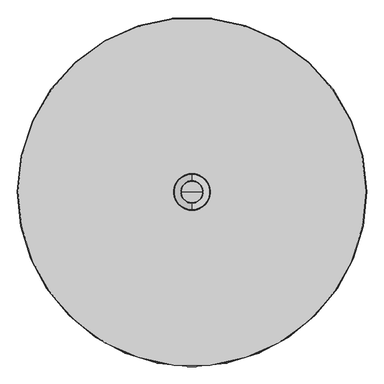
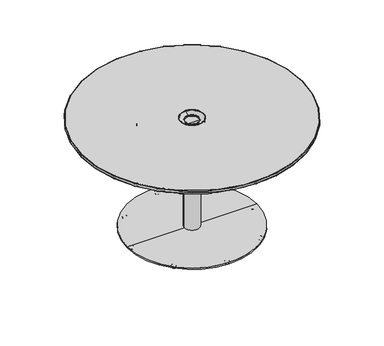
"""IFC4 building model written with IfcOpenShell, lengths in millimetres: furniture geometry, Steelcase Coalesse - Montara650 - Table - Work Height - Round : 54'' Diameter."""

from ifc_helpers import new_model, si_unit, point, frame, origin, origin_with_axes, origin_2d, place, context, project, spatial, polyline, circle_curve, ellipse_curve, trimmed, segment, composite_curve, outline, extrude, source, transform, mapped, element, save
from ifc_brep_helpers import plane_surface, cylinder_surface, revolved_surface, advanced_brep


def furniture_9ac325f6(model_context):
    return source(origin(), model_context, "Body", "SolidModel", [
        advanced_brep(
        [(265.1850578, -265.1850578, 0.0), (272.5277002, -272.5277002, 0.0), (257.8424153, -257.8424153, 0.0), (273.0742024, -273.0742024, 0.5718943), (257.2959132, -257.2959132, 0.5718943), (275.3733015, -275.3733015, 11.2068005), (254.9968141, -254.9968141, 11.2068005), (274.9582806, -274.9582806, 11.9999882), (255.4118349, -255.4118349, 11.9999882), (265.1850578, -265.1850578, 11.9999882)],
        [
            (0, 1),
            (1, 2, circle_curve(frame((265.1850578, -265.1850578, 0.0), z_axis=(0.0, 0.0, -1.0), x_axis=(0.7071067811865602, -0.7071067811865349, 0.0)), 10.3840645)),
            (2, 0),
            (2, 1, circle_curve(frame((265.1850578, -265.1850578, 0.0), z_axis=(0.0, 0.0, -1.0), x_axis=(0.7071067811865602, -0.7071067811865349, 0.0)), 10.3840645)),
            (1, 3, circle_curve(frame((272.5277002, -272.5277002, 0.8081846), z_axis=(-0.7071067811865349, -0.7071067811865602, 0.0), x_axis=(0.7071067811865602, -0.7071067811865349, 0.0)), 0.8081846)),
            (3, 4, circle_curve(frame((265.1850578, -265.1850578, 0.5718943), z_axis=(0.0, 0.0, -1.0), x_axis=(0.7071067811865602, -0.7071067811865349, 0.0)), 11.1569353)),
            (4, 2, circle_curve(frame((257.8424153, -257.8424153, 0.8081846), z_axis=(-0.7071067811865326, -0.7071067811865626, 0.0), x_axis=(-0.7071067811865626, 0.7071067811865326, 0.0)), 0.8081846)),
            (4, 3, circle_curve(frame((265.1850578, -265.1850578, 0.5718943), z_axis=(0.0, 0.0, -1.0), x_axis=(0.7071067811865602, -0.7071067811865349, 0.0)), 11.1569353)),
            (3, 5),
            (5, 6, circle_curve(frame((265.1850578, -265.1850578, 11.2068005), z_axis=(0.0, 0.0, -1.0), x_axis=(0.7071067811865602, -0.7071067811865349, 0.0)), 14.4083524)),
            (6, 4),
            (6, 5, circle_curve(frame((265.1850578, -265.1850578, 11.2068005), z_axis=(0.0, 0.0, -1.0), x_axis=(0.7071067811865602, -0.7071067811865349, 0.0)), 14.4083524)),
            (5, 7, circle_curve(frame((274.9582806, -274.9582806, 11.3862424), z_axis=(-0.7071067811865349, -0.7071067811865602, 0.0), x_axis=(0.7071067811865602, -0.7071067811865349, 0.0)), 0.6137458)),
            (7, 8, circle_curve(frame((265.1850578, -265.1850578, 11.9999882), z_axis=(0.0, 0.0, -1.0), x_axis=(0.7071067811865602, -0.7071067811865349, 0.0)), 13.8214243)),
            (8, 6, circle_curve(frame((255.4118349, -255.4118349, 11.3862424), z_axis=(-0.7071067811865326, -0.7071067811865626, 0.0), x_axis=(-0.7071067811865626, 0.7071067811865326, 0.0)), 0.6137458)),
            (8, 7, circle_curve(frame((265.1850578, -265.1850578, 11.9999882), z_axis=(0.0, 0.0, -1.0), x_axis=(0.7071067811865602, -0.7071067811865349, 0.0)), 13.8214243)),
            (7, 9),
            (9, 8),
        ],
        [
            plane_surface(frame((265.1850578, -265.1850578, 0.0), z_axis=(0.0, 0.0, -1.0000000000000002), x_axis=(0.7071067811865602, -0.7071067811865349, 0.0))),
            revolved_surface(trimmed(ellipse_curve(frame((272.5277002, -272.5277002, 0.8081846), z_axis=(0.7071067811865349, 0.7071067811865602, 0.0), x_axis=(0.7071067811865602, -0.7071067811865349, 0.0)), 0.8081846, 0.8081846), [point((273.0742024, -273.0742024, 0.5718943))], [point((272.5277002, -272.5277002, 0.0))], True, "CARTESIAN"), (265.1850578, -265.1850578, 12.2086845), (0.0, 0.0, -1.0)),
            revolved_surface(polyline([(275.3733015, -275.3733015, 11.2068005), (273.0742024, -273.0742024, 0.5718943)]), (265.1850578, -265.1850578, 12.2086845), (0.0, 0.0, -1.0)),
            revolved_surface(trimmed(ellipse_curve(frame((274.9582806, -274.9582806, 11.3862424), z_axis=(0.7071067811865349, 0.7071067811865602, 0.0), x_axis=(0.7071067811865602, -0.7071067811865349, 0.0)), 0.6137458, 0.6137458), [point((274.9582806, -274.9582806, 11.9999882))], [point((275.3733015, -275.3733015, 11.2068005))], True, "CARTESIAN"), (265.1850578, -265.1850578, 12.2086845), (0.0, 0.0, -1.0)),
            plane_surface(frame((265.1850578, -265.1850578, 11.9999882), z_axis=(0.0, 0.0, 1.0000000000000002), x_axis=(0.7071067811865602, -0.7071067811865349, 0.0))),
        ],
        [
            (0, [[1, 2, 3]]),
            (0, [[-3, 4, -1]]),
            (1, [[-2, 5, 6, 7]]),
            (1, [[-4, -7, 8, -5]]),
            (2, [[-6, 9, 10, 11]]),
            (2, [[-8, -11, 12, -9]]),
            (3, [[-10, 13, 14, 15]]),
            (3, [[-12, -15, 16, -13]]),
            (4, [[-14, 17, 18]]),
            (4, [[-16, -18, -17]]),
        ],
    ),
        advanced_brep(
        [(-257.8424153, -257.8424153, 0.0), (-272.5277002, -272.5277002, 0.0), (-265.1850578, -265.1850578, 0.0), (-257.2959132, -257.2959132, 0.5718943), (-273.0742024, -273.0742024, 0.5718943), (-254.9968141, -254.9968141, 11.2068005), (-275.3733015, -275.3733015, 11.2068005), (-255.4118349, -255.4118349, 11.9999882), (-274.9582806, -274.9582806, 11.9999882), (-265.1850578, -265.1850578, 11.9999882)],
        [
            (0, 1, circle_curve(frame((-265.1850578, -265.1850578, 0.0), z_axis=(0.0, 0.0, -1.0), x_axis=(-0.7071067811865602, -0.7071067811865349, 0.0)), 10.3840645)),
            (1, 2),
            (2, 0),
            (1, 0, circle_curve(frame((-265.1850578, -265.1850578, 0.0), z_axis=(0.0, 0.0, -1.0), x_axis=(-0.7071067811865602, -0.7071067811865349, 0.0)), 10.3840645)),
            (3, 4, circle_curve(frame((-265.1850578, -265.1850578, 0.5718943), z_axis=(0.0, 0.0, -1.0), x_axis=(-0.7071067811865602, -0.7071067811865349, 0.0)), 11.1569353)),
            (4, 1, circle_curve(frame((-272.5277002, -272.5277002, 0.8081846), z_axis=(0.7071067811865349, -0.7071067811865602, 0.0), x_axis=(-0.7071067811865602, -0.7071067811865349, 0.0)), 0.8081846)),
            (0, 3, circle_curve(frame((-257.8424153, -257.8424153, 0.8081846), z_axis=(0.7071067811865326, -0.7071067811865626, 0.0), x_axis=(0.7071067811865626, 0.7071067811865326, 0.0)), 0.8081846)),
            (4, 3, circle_curve(frame((-265.1850578, -265.1850578, 0.5718943), z_axis=(0.0, 0.0, -1.0), x_axis=(-0.7071067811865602, -0.7071067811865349, 0.0)), 11.1569353)),
            (5, 6, circle_curve(frame((-265.1850578, -265.1850578, 11.2068005), z_axis=(0.0, 0.0, -1.0), x_axis=(-0.7071067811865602, -0.7071067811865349, 0.0)), 14.4083524)),
            (6, 4),
            (3, 5),
            (6, 5, circle_curve(frame((-265.1850578, -265.1850578, 11.2068005), z_axis=(0.0, 0.0, -1.0), x_axis=(-0.7071067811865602, -0.7071067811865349, 0.0)), 14.4083524)),
            (7, 8, circle_curve(frame((-265.1850578, -265.1850578, 11.9999882), z_axis=(0.0, 0.0, -1.0), x_axis=(-0.7071067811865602, -0.7071067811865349, 0.0)), 13.8214243)),
            (8, 6, circle_curve(frame((-274.9582806, -274.9582806, 11.3862424), z_axis=(0.7071067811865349, -0.7071067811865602, 0.0), x_axis=(-0.7071067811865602, -0.7071067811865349, 0.0)), 0.6137458)),
            (5, 7, circle_curve(frame((-255.4118349, -255.4118349, 11.3862424), z_axis=(0.7071067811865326, -0.7071067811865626, 0.0), x_axis=(0.7071067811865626, 0.7071067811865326, 0.0)), 0.6137458)),
            (8, 7, circle_curve(frame((-265.1850578, -265.1850578, 11.9999882), z_axis=(0.0, 0.0, -1.0), x_axis=(-0.7071067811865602, -0.7071067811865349, 0.0)), 13.8214243)),
            (9, 8),
            (7, 9),
        ],
        [
            plane_surface(frame((-265.1850578, -265.1850578, 0.0), z_axis=(0.0, 0.0, -1.0000000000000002), x_axis=(-0.7071067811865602, -0.7071067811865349, 0.0))),
            revolved_surface(trimmed(ellipse_curve(frame((-272.5277002, -272.5277002, 0.8081846), z_axis=(-0.7071067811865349, 0.7071067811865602, 0.0), x_axis=(-0.7071067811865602, -0.7071067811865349, 0.0)), 0.8081846, 0.8081846), [point((-272.5277002, -272.5277002, 0.0))], [point((-273.0742024, -273.0742024, 0.5718943))], True, "CARTESIAN"), (-265.1850578, -265.1850578, 12.2086845), (0.0, 0.0, 1.0)),
            revolved_surface(polyline([(-273.0742024, -273.0742024, 0.5718943), (-275.3733015, -275.3733015, 11.2068005)]), (-265.1850578, -265.1850578, 12.2086845), (0.0, 0.0, 1.0)),
            revolved_surface(trimmed(ellipse_curve(frame((-274.9582806, -274.9582806, 11.3862424), z_axis=(-0.7071067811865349, 0.7071067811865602, 0.0), x_axis=(-0.7071067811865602, -0.7071067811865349, 0.0)), 0.6137458, 0.6137458), [point((-275.3733015, -275.3733015, 11.2068005))], [point((-274.9582806, -274.9582806, 11.9999882))], True, "CARTESIAN"), (-265.1850578, -265.1850578, 12.2086845), (0.0, 0.0, 1.0)),
            plane_surface(frame((-265.1850578, -265.1850578, 11.9999882), z_axis=(0.0, 0.0, 1.0000000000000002), x_axis=(-0.7071067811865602, -0.7071067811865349, 0.0))),
        ],
        [
            (0, [[1, 2, 3]]),
            (0, [[4, -3, -2]]),
            (1, [[5, 6, -1, 7]]),
            (1, [[8, -7, -4, -6]]),
            (2, [[9, 10, -5, 11]]),
            (2, [[12, -11, -8, -10]]),
            (3, [[13, 14, -9, 15]]),
            (3, [[16, -15, -12, -14]]),
            (4, [[17, -13, 18]]),
            (4, [[-18, -16, -17]]),
        ],
    ),
        advanced_brep(
        [(0.0, -364.6442407, 0.0), (0.0, -385.4123697, 0.0), (0.0, -375.0283052, 0.0), (0.0, -363.87137, 0.5718943), (0.0, -386.1852405, 0.5718943), (0.0, -360.6199529, 11.2068005), (0.0, -389.4366576, 11.2068005), (0.0, -361.2068809, 11.9999882), (0.0, -388.8497296, 11.9999882), (0.0, -375.0283052, 11.9999882)],
        [
            (0, 1, circle_curve(frame((0.0, -375.0283052, 0.0), z_axis=(0.0, 0.0, -1.0), x_axis=(0.0, -1.0, 0.0)), 10.3840645)),
            (1, 2),
            (2, 0),
            (1, 0, circle_curve(frame((0.0, -375.0283052, 0.0), z_axis=(0.0, 0.0, -1.0), x_axis=(0.0, -1.0, 0.0)), 10.3840645)),
            (3, 4, circle_curve(frame((0.0, -375.0283052, 0.5718943), z_axis=(0.0, 0.0, -1.0), x_axis=(0.0, -1.0, 0.0)), 11.1569353)),
            (4, 1, circle_curve(frame((0.0, -385.4123697, 0.8081846), z_axis=(1.0, 0.0, 0.0), x_axis=(0.0, -1.0, 0.0)), 0.8081846)),
            (0, 3, circle_curve(frame((0.0, -364.6442407, 0.8081846), z_axis=(1.0, 0.0, 0.0), x_axis=(0.0, 1.0, 0.0)), 0.8081846)),
            (4, 3, circle_curve(frame((0.0, -375.0283052, 0.5718943), z_axis=(0.0, 0.0, -1.0), x_axis=(0.0, -1.0, 0.0)), 11.1569353)),
            (5, 6, circle_curve(frame((0.0, -375.0283052, 11.2068005), z_axis=(0.0, 0.0, -1.0), x_axis=(0.0, -1.0, 0.0)), 14.4083524)),
            (6, 4),
            (3, 5),
            (6, 5, circle_curve(frame((0.0, -375.0283052, 11.2068005), z_axis=(0.0, 0.0, -1.0), x_axis=(0.0, -1.0, 0.0)), 14.4083524)),
            (7, 8, circle_curve(frame((0.0, -375.0283052, 11.9999882), z_axis=(0.0, 0.0, -1.0), x_axis=(0.0, -1.0, 0.0)), 13.8214243)),
            (8, 6, circle_curve(frame((0.0, -388.8497296, 11.3862424), z_axis=(1.0, 0.0, 0.0), x_axis=(0.0, -1.0, 0.0)), 0.6137458)),
            (5, 7, circle_curve(frame((0.0, -361.2068809, 11.3862424), z_axis=(1.0, 0.0, 0.0), x_axis=(0.0, 1.0, 0.0)), 0.6137458)),
            (8, 7, circle_curve(frame((0.0, -375.0283052, 11.9999882), z_axis=(0.0, 0.0, -1.0), x_axis=(0.0, -1.0, 0.0)), 13.8214243)),
            (9, 8),
            (7, 9),
        ],
        [
            plane_surface(frame((0.0, -375.0283052, 0.0), z_axis=(0.0, 0.0, -1.0), x_axis=(0.0, -1.0, 0.0))),
            revolved_surface(trimmed(ellipse_curve(frame((0.0, -385.4123697, 0.8081846), z_axis=(-1.0, 0.0, 0.0), x_axis=(0.0, -1.0, 0.0)), 0.8081846, 0.8081846), [point((0.0, -385.4123697, 0.0))], [point((0.0, -386.1852405, 0.5718943))], True, "CARTESIAN"), (0.0, -375.0283052, 12.2086845), (0.0, 0.0, 1.0)),
            revolved_surface(polyline([(0.0, -386.1852405, 0.5718943), (0.0, -389.4366576, 11.2068005)]), (0.0, -375.0283052, 12.2086845), (0.0, 0.0, 1.0)),
            revolved_surface(trimmed(ellipse_curve(frame((0.0, -388.8497296, 11.3862424), z_axis=(-1.0, 0.0, 0.0), x_axis=(0.0, -1.0, 0.0)), 0.6137458, 0.6137458), [point((0.0, -389.4366576, 11.2068005))], [point((0.0, -388.8497296, 11.9999882))], True, "CARTESIAN"), (0.0, -375.0283052, 12.2086845), (0.0, 0.0, 1.0)),
            plane_surface(frame((0.0, -375.0283052, 11.9999882), z_axis=(0.0, 0.0, 1.0), x_axis=(0.0, -1.0, 0.0))),
        ],
        [
            (0, [[1, 2, 3]]),
            (0, [[4, -3, -2]]),
            (1, [[5, 6, -1, 7]]),
            (1, [[8, -7, -4, -6]]),
            (2, [[9, 10, -5, 11]]),
            (2, [[12, -11, -8, -10]]),
            (3, [[13, 14, -9, 15]]),
            (3, [[16, -15, -12, -14]]),
            (4, [[17, -13, 18]]),
            (4, [[-18, -16, -17]]),
        ],
    ),
        advanced_brep(
        [(364.6442407, 0.0, 0.0), (385.4123697, 0.0, 0.0), (375.0283052, 0.0, 0.0), (363.87137, 0.0, 0.5718943), (386.1852405, 0.0, 0.5718943), (360.6199529, 0.0, 11.2068005), (389.4366576, 0.0, 11.2068005), (361.2068809, 0.0, 11.9999882), (388.8497296, 0.0, 11.9999882), (375.0283052, 0.0, 11.9999882)],
        [
            (0, 1, circle_curve(frame((375.0283052, 0.0, 0.0), z_axis=(0.0, 0.0, -1.0), x_axis=(1.0, 0.0, 0.0)), 10.3840645)),
            (1, 2),
            (2, 0),
            (1, 0, circle_curve(frame((375.0283052, 0.0, 0.0), z_axis=(0.0, 0.0, -1.0), x_axis=(1.0, 0.0, 0.0)), 10.3840645)),
            (3, 4, circle_curve(frame((375.0283052, 0.0, 0.5718943), z_axis=(0.0, 0.0, -1.0), x_axis=(1.0, 0.0, 0.0)), 11.1569353)),
            (4, 1, circle_curve(frame((385.4123697, 0.0, 0.8081846), z_axis=(0.0, 1.0, 0.0), x_axis=(1.0, 0.0, 0.0)), 0.8081846)),
            (0, 3, circle_curve(frame((364.6442407, 0.0, 0.8081846), z_axis=(0.0, 1.0, 0.0), x_axis=(-1.0, 0.0, 0.0)), 0.8081846)),
            (4, 3, circle_curve(frame((375.0283052, 0.0, 0.5718943), z_axis=(0.0, 0.0, -1.0), x_axis=(1.0, 0.0, 0.0)), 11.1569353)),
            (5, 6, circle_curve(frame((375.0283052, 0.0, 11.2068005), z_axis=(0.0, 0.0, -1.0), x_axis=(1.0, 0.0, 0.0)), 14.4083524)),
            (6, 4),
            (3, 5),
            (6, 5, circle_curve(frame((375.0283052, 0.0, 11.2068005), z_axis=(0.0, 0.0, -1.0), x_axis=(1.0, 0.0, 0.0)), 14.4083524)),
            (7, 8, circle_curve(frame((375.0283052, 0.0, 11.9999882), z_axis=(0.0, 0.0, -1.0), x_axis=(1.0, 0.0, 0.0)), 13.8214243)),
            (8, 6, circle_curve(frame((388.8497296, 0.0, 11.3862424), z_axis=(0.0, 1.0, 0.0), x_axis=(1.0, 0.0, 0.0)), 0.6137458)),
            (5, 7, circle_curve(frame((361.2068809, 0.0, 11.3862424), z_axis=(0.0, 1.0, 0.0), x_axis=(-1.0, 0.0, 0.0)), 0.6137458)),
            (8, 7, circle_curve(frame((375.0283052, 0.0, 11.9999882), z_axis=(0.0, 0.0, -1.0), x_axis=(1.0, 0.0, 0.0)), 13.8214243)),
            (9, 8),
            (7, 9),
        ],
        [
            plane_surface(frame((375.0283052, 0.0, 0.0), z_axis=(0.0, 0.0, -1.0), x_axis=(1.0, 0.0, 0.0))),
            revolved_surface(trimmed(ellipse_curve(frame((385.4123697, 0.0, 0.8081846), z_axis=(0.0, -1.0, 0.0), x_axis=(1.0, 0.0, 0.0)), 0.8081846, 0.8081846), [point((385.4123697, 0.0, 0.0))], [point((386.1852405, 0.0, 0.5718943))], True, "CARTESIAN"), (375.0283052, 0.0, 12.2086845), (0.0, 0.0, 1.0)),
            revolved_surface(polyline([(386.1852405, 0.0, 0.5718943), (389.4366576, 0.0, 11.2068005)]), (375.0283052, 0.0, 12.2086845), (0.0, 0.0, 1.0)),
            revolved_surface(trimmed(ellipse_curve(frame((388.8497296, 0.0, 11.3862424), z_axis=(0.0, -1.0, 0.0), x_axis=(1.0, 0.0, 0.0)), 0.6137458, 0.6137458), [point((389.4366576, 0.0, 11.2068005))], [point((388.8497296, 0.0, 11.9999882))], True, "CARTESIAN"), (375.0283052, 0.0, 12.2086845), (0.0, 0.0, 1.0)),
            plane_surface(frame((375.0283052, 0.0, 11.9999882), z_axis=(0.0, 0.0, 1.0), x_axis=(1.0, 0.0, 0.0))),
        ],
        [
            (0, [[1, 2, 3]]),
            (0, [[4, -3, -2]]),
            (1, [[5, 6, -1, 7]]),
            (1, [[8, -7, -4, -6]]),
            (2, [[9, 10, -5, 11]]),
            (2, [[12, -11, -8, -10]]),
            (3, [[13, 14, -9, 15]]),
            (3, [[16, -15, -12, -14]]),
            (4, [[17, -13, 18]]),
            (4, [[-18, -16, -17]]),
        ],
    ),
        advanced_brep(
        [(257.8424153, 257.8424153, 0.0), (272.5277002, 272.5277002, 0.0), (265.1850578, 265.1850578, 0.0), (257.2959132, 257.2959132, 0.5718943), (273.0742024, 273.0742024, 0.5718943), (254.9968141, 254.9968141, 11.2068005), (275.3733015, 275.3733015, 11.2068005), (255.4118349, 255.4118349, 11.9999882), (274.9582806, 274.9582806, 11.9999882), (265.1850578, 265.1850578, 11.9999882)],
        [
            (0, 1, circle_curve(frame((265.1850578, 265.1850578, 0.0), z_axis=(0.0, 0.0, -1.0), x_axis=(0.7071067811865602, 0.7071067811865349, 0.0)), 10.3840645)),
            (1, 2),
            (2, 0),
            (1, 0, circle_curve(frame((265.1850578, 265.1850578, 0.0), z_axis=(0.0, 0.0, -1.0), x_axis=(0.7071067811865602, 0.7071067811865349, 0.0)), 10.3840645)),
            (3, 4, circle_curve(frame((265.1850578, 265.1850578, 0.5718943), z_axis=(0.0, 0.0, -1.0), x_axis=(0.7071067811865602, 0.7071067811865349, 0.0)), 11.1569353)),
            (4, 1, circle_curve(frame((272.5277002, 272.5277002, 0.8081846), z_axis=(-0.7071067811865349, 0.7071067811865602, 0.0), x_axis=(0.7071067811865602, 0.7071067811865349, 0.0)), 0.8081846)),
            (0, 3, circle_curve(frame((257.8424153, 257.8424153, 0.8081846), z_axis=(-0.7071067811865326, 0.7071067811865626, 0.0), x_axis=(-0.7071067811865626, -0.7071067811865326, 0.0)), 0.8081846)),
            (4, 3, circle_curve(frame((265.1850578, 265.1850578, 0.5718943), z_axis=(0.0, 0.0, -1.0), x_axis=(0.7071067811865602, 0.7071067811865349, 0.0)), 11.1569353)),
            (5, 6, circle_curve(frame((265.1850578, 265.1850578, 11.2068005), z_axis=(0.0, 0.0, -1.0), x_axis=(0.7071067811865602, 0.7071067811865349, 0.0)), 14.4083524)),
            (6, 4),
            (3, 5),
            (6, 5, circle_curve(frame((265.1850578, 265.1850578, 11.2068005), z_axis=(0.0, 0.0, -1.0), x_axis=(0.7071067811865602, 0.7071067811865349, 0.0)), 14.4083524)),
            (7, 8, circle_curve(frame((265.1850578, 265.1850578, 11.9999882), z_axis=(0.0, 0.0, -1.0), x_axis=(0.7071067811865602, 0.7071067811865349, 0.0)), 13.8214243)),
            (8, 6, circle_curve(frame((274.9582806, 274.9582806, 11.3862424), z_axis=(-0.7071067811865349, 0.7071067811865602, 0.0), x_axis=(0.7071067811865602, 0.7071067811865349, 0.0)), 0.6137458)),
            (5, 7, circle_curve(frame((255.4118349, 255.4118349, 11.3862424), z_axis=(-0.7071067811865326, 0.7071067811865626, 0.0), x_axis=(-0.7071067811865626, -0.7071067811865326, 0.0)), 0.6137458)),
            (8, 7, circle_curve(frame((265.1850578, 265.1850578, 11.9999882), z_axis=(0.0, 0.0, -1.0), x_axis=(0.7071067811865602, 0.7071067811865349, 0.0)), 13.8214243)),
            (9, 8),
            (7, 9),
        ],
        [
            plane_surface(frame((265.1850578, 265.1850578, 0.0), z_axis=(0.0, 0.0, -1.0000000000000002), x_axis=(0.7071067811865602, 0.7071067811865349, 0.0))),
            revolved_surface(trimmed(ellipse_curve(frame((272.5277002, 272.5277002, 0.8081846), z_axis=(0.7071067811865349, -0.7071067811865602, 0.0), x_axis=(0.7071067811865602, 0.7071067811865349, 0.0)), 0.8081846, 0.8081846), [point((272.5277002, 272.5277002, 0.0))], [point((273.0742024, 273.0742024, 0.5718943))], True, "CARTESIAN"), (265.1850578, 265.1850578, 12.2086845), (0.0, 0.0, 1.0)),
            revolved_surface(polyline([(273.0742024, 273.0742024, 0.5718943), (275.3733015, 275.3733015, 11.2068005)]), (265.1850578, 265.1850578, 12.2086845), (0.0, 0.0, 1.0)),
            revolved_surface(trimmed(ellipse_curve(frame((274.9582806, 274.9582806, 11.3862424), z_axis=(0.7071067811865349, -0.7071067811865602, 0.0), x_axis=(0.7071067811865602, 0.7071067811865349, 0.0)), 0.6137458, 0.6137458), [point((275.3733015, 275.3733015, 11.2068005))], [point((274.9582806, 274.9582806, 11.9999882))], True, "CARTESIAN"), (265.1850578, 265.1850578, 12.2086845), (0.0, 0.0, 1.0)),
            plane_surface(frame((265.1850578, 265.1850578, 11.9999882), z_axis=(0.0, 0.0, 1.0000000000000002), x_axis=(0.7071067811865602, 0.7071067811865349, 0.0))),
        ],
        [
            (0, [[1, 2, 3]]),
            (0, [[4, -3, -2]]),
            (1, [[5, 6, -1, 7]]),
            (1, [[8, -7, -4, -6]]),
            (2, [[9, 10, -5, 11]]),
            (2, [[12, -11, -8, -10]]),
            (3, [[13, 14, -9, 15]]),
            (3, [[16, -15, -12, -14]]),
            (4, [[17, -13, 18]]),
            (4, [[-18, -16, -17]]),
        ],
    ),
        advanced_brep(
        [(-265.1850578, 265.1850578, 0.0), (-272.5277002, 272.5277002, 0.0), (-257.8424153, 257.8424153, 0.0), (-273.0742024, 273.0742024, 0.5718943), (-257.2959132, 257.2959132, 0.5718943), (-275.3733015, 275.3733015, 11.2068005), (-254.9968141, 254.9968141, 11.2068005), (-274.9582806, 274.9582806, 11.9999882), (-255.4118349, 255.4118349, 11.9999882), (-265.1850578, 265.1850578, 11.9999882)],
        [
            (0, 1),
            (1, 2, circle_curve(frame((-265.1850578, 265.1850578, 0.0), z_axis=(0.0, 0.0, -1.0), x_axis=(-0.7071067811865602, 0.7071067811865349, 0.0)), 10.3840645)),
            (2, 0),
            (2, 1, circle_curve(frame((-265.1850578, 265.1850578, 0.0), z_axis=(0.0, 0.0, -1.0), x_axis=(-0.7071067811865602, 0.7071067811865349, 0.0)), 10.3840645)),
            (1, 3, circle_curve(frame((-272.5277002, 272.5277002, 0.8081846), z_axis=(0.7071067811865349, 0.7071067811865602, 0.0), x_axis=(-0.7071067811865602, 0.7071067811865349, 0.0)), 0.8081846)),
            (3, 4, circle_curve(frame((-265.1850578, 265.1850578, 0.5718943), z_axis=(0.0, 0.0, -1.0), x_axis=(-0.7071067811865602, 0.7071067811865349, 0.0)), 11.1569353)),
            (4, 2, circle_curve(frame((-257.8424153, 257.8424153, 0.8081846), z_axis=(0.7071067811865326, 0.7071067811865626, 0.0), x_axis=(0.7071067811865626, -0.7071067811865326, 0.0)), 0.8081846)),
            (4, 3, circle_curve(frame((-265.1850578, 265.1850578, 0.5718943), z_axis=(0.0, 0.0, -1.0), x_axis=(-0.7071067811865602, 0.7071067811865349, 0.0)), 11.1569353)),
            (3, 5),
            (5, 6, circle_curve(frame((-265.1850578, 265.1850578, 11.2068005), z_axis=(0.0, 0.0, -1.0), x_axis=(-0.7071067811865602, 0.7071067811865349, 0.0)), 14.4083524)),
            (6, 4),
            (6, 5, circle_curve(frame((-265.1850578, 265.1850578, 11.2068005), z_axis=(0.0, 0.0, -1.0), x_axis=(-0.7071067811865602, 0.7071067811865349, 0.0)), 14.4083524)),
            (5, 7, circle_curve(frame((-274.9582806, 274.9582806, 11.3862424), z_axis=(0.7071067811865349, 0.7071067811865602, 0.0), x_axis=(-0.7071067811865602, 0.7071067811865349, 0.0)), 0.6137458)),
            (7, 8, circle_curve(frame((-265.1850578, 265.1850578, 11.9999882), z_axis=(0.0, 0.0, -1.0), x_axis=(-0.7071067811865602, 0.7071067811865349, 0.0)), 13.8214243)),
            (8, 6, circle_curve(frame((-255.4118349, 255.4118349, 11.3862424), z_axis=(0.7071067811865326, 0.7071067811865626, 0.0), x_axis=(0.7071067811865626, -0.7071067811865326, 0.0)), 0.6137458)),
            (8, 7, circle_curve(frame((-265.1850578, 265.1850578, 11.9999882), z_axis=(0.0, 0.0, -1.0), x_axis=(-0.7071067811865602, 0.7071067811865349, 0.0)), 13.8214243)),
            (7, 9),
            (9, 8),
        ],
        [
            plane_surface(frame((-265.1850578, 265.1850578, 0.0), z_axis=(0.0, 0.0, -1.0000000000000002), x_axis=(-0.7071067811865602, 0.7071067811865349, 0.0))),
            revolved_surface(trimmed(ellipse_curve(frame((-272.5277002, 272.5277002, 0.8081846), z_axis=(-0.7071067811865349, -0.7071067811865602, 0.0), x_axis=(-0.7071067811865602, 0.7071067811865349, 0.0)), 0.8081846, 0.8081846), [point((-273.0742024, 273.0742024, 0.5718943))], [point((-272.5277002, 272.5277002, 0.0))], True, "CARTESIAN"), (-265.1850578, 265.1850578, 12.2086845), (0.0, 0.0, -1.0)),
            revolved_surface(polyline([(-275.3733015, 275.3733015, 11.2068005), (-273.0742024, 273.0742024, 0.5718943)]), (-265.1850578, 265.1850578, 12.2086845), (0.0, 0.0, -1.0)),
            revolved_surface(trimmed(ellipse_curve(frame((-274.9582806, 274.9582806, 11.3862424), z_axis=(-0.7071067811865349, -0.7071067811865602, 0.0), x_axis=(-0.7071067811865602, 0.7071067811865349, 0.0)), 0.6137458, 0.6137458), [point((-274.9582806, 274.9582806, 11.9999882))], [point((-275.3733015, 275.3733015, 11.2068005))], True, "CARTESIAN"), (-265.1850578, 265.1850578, 12.2086845), (0.0, 0.0, -1.0)),
            plane_surface(frame((-265.1850578, 265.1850578, 11.9999882), z_axis=(0.0, 0.0, 1.0000000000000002), x_axis=(-0.7071067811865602, 0.7071067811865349, 0.0))),
        ],
        [
            (0, [[1, 2, 3]]),
            (0, [[-3, 4, -1]]),
            (1, [[-2, 5, 6, 7]]),
            (1, [[-4, -7, 8, -5]]),
            (2, [[-6, 9, 10, 11]]),
            (2, [[-8, -11, 12, -9]]),
            (3, [[-10, 13, 14, 15]]),
            (3, [[-12, -15, 16, -13]]),
            (4, [[-14, 17, 18]]),
            (4, [[-16, -18, -17]]),
        ],
    ),
        advanced_brep(
        [(0.0, 375.0283052, 0.0), (0.0, 385.4123697, 0.0), (0.0, 364.6442407, 0.0), (0.0, 386.1852405, 0.5718943), (0.0, 363.87137, 0.5718943), (0.0, 389.4366576, 11.2068005), (0.0, 360.6199529, 11.2068005), (0.0, 388.8497296, 11.9999882), (0.0, 361.2068809, 11.9999882), (0.0, 375.0283052, 11.9999882)],
        [
            (0, 1),
            (1, 2, circle_curve(frame((0.0, 375.0283052, 0.0), z_axis=(0.0, 0.0, -1.0), x_axis=(0.0, 1.0, 0.0)), 10.3840645)),
            (2, 0),
            (2, 1, circle_curve(frame((0.0, 375.0283052, 0.0), z_axis=(0.0, 0.0, -1.0), x_axis=(0.0, 1.0, 0.0)), 10.3840645)),
            (1, 3, circle_curve(frame((0.0, 385.4123697, 0.8081846), z_axis=(1.0, 0.0, 0.0), x_axis=(0.0, 1.0, 0.0)), 0.8081846)),
            (3, 4, circle_curve(frame((0.0, 375.0283052, 0.5718943), z_axis=(0.0, 0.0, -1.0), x_axis=(0.0, 1.0, 0.0)), 11.1569353)),
            (4, 2, circle_curve(frame((0.0, 364.6442407, 0.8081846), z_axis=(1.0, 0.0, 0.0), x_axis=(0.0, -1.0, 0.0)), 0.8081846)),
            (4, 3, circle_curve(frame((0.0, 375.0283052, 0.5718943), z_axis=(0.0, 0.0, -1.0), x_axis=(0.0, 1.0, 0.0)), 11.1569353)),
            (3, 5),
            (5, 6, circle_curve(frame((0.0, 375.0283052, 11.2068005), z_axis=(0.0, 0.0, -1.0), x_axis=(0.0, 1.0, 0.0)), 14.4083524)),
            (6, 4),
            (6, 5, circle_curve(frame((0.0, 375.0283052, 11.2068005), z_axis=(0.0, 0.0, -1.0), x_axis=(0.0, 1.0, 0.0)), 14.4083524)),
            (5, 7, circle_curve(frame((0.0, 388.8497296, 11.3862424), z_axis=(1.0, 0.0, 0.0), x_axis=(0.0, 1.0, 0.0)), 0.6137458)),
            (7, 8, circle_curve(frame((0.0, 375.0283052, 11.9999882), z_axis=(0.0, 0.0, -1.0), x_axis=(0.0, 1.0, 0.0)), 13.8214243)),
            (8, 6, circle_curve(frame((0.0, 361.2068809, 11.3862424), z_axis=(1.0, 0.0, 0.0), x_axis=(0.0, -1.0, 0.0)), 0.6137458)),
            (8, 7, circle_curve(frame((0.0, 375.0283052, 11.9999882), z_axis=(0.0, 0.0, -1.0), x_axis=(0.0, 1.0, 0.0)), 13.8214243)),
            (7, 9),
            (9, 8),
        ],
        [
            plane_surface(frame((0.0, 375.0283052, 0.0), z_axis=(0.0, 0.0, -1.0), x_axis=(0.0, 1.0, 0.0))),
            revolved_surface(trimmed(ellipse_curve(frame((0.0, 385.4123697, 0.8081846), z_axis=(-1.0, 0.0, 0.0), x_axis=(0.0, 1.0, 0.0)), 0.8081846, 0.8081846), [point((0.0, 386.1852405, 0.5718943))], [point((0.0, 385.4123697, 0.0))], True, "CARTESIAN"), (0.0, 375.0283052, 12.2086845), (0.0, 0.0, -1.0)),
            revolved_surface(polyline([(0.0, 389.4366576, 11.2068005), (0.0, 386.1852405, 0.5718943)]), (0.0, 375.0283052, 12.2086845), (0.0, 0.0, -1.0)),
            revolved_surface(trimmed(ellipse_curve(frame((0.0, 388.8497296, 11.3862424), z_axis=(-1.0, 0.0, 0.0), x_axis=(0.0, 1.0, 0.0)), 0.6137458, 0.6137458), [point((0.0, 388.8497296, 11.9999882))], [point((0.0, 389.4366576, 11.2068005))], True, "CARTESIAN"), (0.0, 375.0283052, 12.2086845), (0.0, 0.0, -1.0)),
            plane_surface(frame((0.0, 375.0283052, 11.9999882), z_axis=(0.0, 0.0, 1.0), x_axis=(0.0, 1.0, 0.0))),
        ],
        [
            (0, [[1, 2, 3]]),
            (0, [[-3, 4, -1]]),
            (1, [[-2, 5, 6, 7]]),
            (1, [[-4, -7, 8, -5]]),
            (2, [[-6, 9, 10, 11]]),
            (2, [[-8, -11, 12, -9]]),
            (3, [[-10, 13, 14, 15]]),
            (3, [[-12, -15, 16, -13]]),
            (4, [[-14, 17, 18]]),
            (4, [[-16, -18, -17]]),
        ],
    ),
        advanced_brep(
        [(-375.0283052, 0.0, 0.0), (-385.4123697, 0.0, 0.0), (-364.6442407, 0.0, 0.0), (-386.1852405, 0.0, 0.5718943), (-363.87137, 0.0, 0.5718943), (-389.4366576, 0.0, 11.2068005), (-360.6199529, 0.0, 11.2068005), (-388.8497296, 0.0, 11.9999882), (-361.2068809, 0.0, 11.9999882), (-375.0283052, 0.0, 11.9999882)],
        [
            (0, 1),
            (1, 2, circle_curve(frame((-375.0283052, 0.0, 0.0), z_axis=(0.0, 0.0, -1.0), x_axis=(-1.0, 0.0, 0.0)), 10.3840645)),
            (2, 0),
            (2, 1, circle_curve(frame((-375.0283052, 0.0, 0.0), z_axis=(0.0, 0.0, -1.0), x_axis=(-1.0, 0.0, 0.0)), 10.3840645)),
            (1, 3, circle_curve(frame((-385.4123697, 0.0, 0.8081846), z_axis=(0.0, 1.0, 0.0), x_axis=(-1.0, 0.0, 0.0)), 0.8081846)),
            (3, 4, circle_curve(frame((-375.0283052, 0.0, 0.5718943), z_axis=(0.0, 0.0, -1.0), x_axis=(-1.0, 0.0, 0.0)), 11.1569353)),
            (4, 2, circle_curve(frame((-364.6442407, 0.0, 0.8081846), z_axis=(0.0, 1.0, 0.0), x_axis=(1.0, 0.0, 0.0)), 0.8081846)),
            (4, 3, circle_curve(frame((-375.0283052, 0.0, 0.5718943), z_axis=(0.0, 0.0, -1.0), x_axis=(-1.0, 0.0, 0.0)), 11.1569353)),
            (3, 5),
            (5, 6, circle_curve(frame((-375.0283052, 0.0, 11.2068005), z_axis=(0.0, 0.0, -1.0), x_axis=(-1.0, 0.0, 0.0)), 14.4083524)),
            (6, 4),
            (6, 5, circle_curve(frame((-375.0283052, 0.0, 11.2068005), z_axis=(0.0, 0.0, -1.0), x_axis=(-1.0, 0.0, 0.0)), 14.4083524)),
            (5, 7, circle_curve(frame((-388.8497296, 0.0, 11.3862424), z_axis=(0.0, 1.0, 0.0), x_axis=(-1.0, 0.0, 0.0)), 0.6137458)),
            (7, 8, circle_curve(frame((-375.0283052, 0.0, 11.9999882), z_axis=(0.0, 0.0, -1.0), x_axis=(-1.0, 0.0, 0.0)), 13.8214243)),
            (8, 6, circle_curve(frame((-361.2068809, 0.0, 11.3862424), z_axis=(0.0, 1.0, 0.0), x_axis=(1.0, 0.0, 0.0)), 0.6137458)),
            (8, 7, circle_curve(frame((-375.0283052, 0.0, 11.9999882), z_axis=(0.0, 0.0, -1.0), x_axis=(-1.0, 0.0, 0.0)), 13.8214243)),
            (7, 9),
            (9, 8),
        ],
        [
            plane_surface(frame((-375.0283052, 0.0, 0.0), z_axis=(0.0, 0.0, -1.0), x_axis=(-1.0, 0.0, 0.0))),
            revolved_surface(trimmed(ellipse_curve(frame((-385.4123697, 0.0, 0.8081846), z_axis=(0.0, -1.0, 0.0), x_axis=(-1.0, 0.0, 0.0)), 0.8081846, 0.8081846), [point((-386.1852405, 0.0, 0.5718943))], [point((-385.4123697, 0.0, 0.0))], True, "CARTESIAN"), (-375.0283052, 0.0, 12.2086845), (0.0, 0.0, -1.0)),
            revolved_surface(polyline([(-389.4366576, 0.0, 11.2068005), (-386.1852405, 0.0, 0.5718943)]), (-375.0283052, 0.0, 12.2086845), (0.0, 0.0, -1.0)),
            revolved_surface(trimmed(ellipse_curve(frame((-388.8497296, 0.0, 11.3862424), z_axis=(0.0, -1.0, 0.0), x_axis=(-1.0, 0.0, 0.0)), 0.6137458, 0.6137458), [point((-388.8497296, 0.0, 11.9999882))], [point((-389.4366576, 0.0, 11.2068005))], True, "CARTESIAN"), (-375.0283052, 0.0, 12.2086845), (0.0, 0.0, -1.0)),
            plane_surface(frame((-375.0283052, 0.0, 11.9999882), z_axis=(0.0, 0.0, 1.0), x_axis=(-1.0, 0.0, 0.0))),
        ],
        [
            (0, [[1, 2, 3]]),
            (0, [[-3, 4, -1]]),
            (1, [[-2, 5, 6, 7]]),
            (1, [[-4, -7, 8, -5]]),
            (2, [[-6, 9, 10, 11]]),
            (2, [[-8, -11, 12, -9]]),
            (3, [[-10, 13, 14, 15]]),
            (3, [[-12, -15, 16, -13]]),
            (4, [[-14, 17, 18]]),
            (4, [[-16, -18, -17]]),
        ],
    ),
        advanced_brep(
        [(224.5135601, 0.0, 690.755027), (-224.5135601, 0.0, 690.755027), (-300.298348, 0.0, 690.755027), (300.298348, 0.0, 690.755027), (85.7580854, 0.0, 674.9837029), (-85.7580854, 0.0, 674.9837029), (54.875485, 0.0, 674.9837029), (-54.875485, 0.0, 674.9837029), (47.0120828, 0.0, 19.9999965), (-47.0120828, 0.0, 19.9999965), (-47.0120828, 0.0, 686.7852036), (47.0120828, 0.0, 686.7852036), (401.1092005, 0.0, 19.9999965), (-401.1092005, 0.0, 19.9999965), (401.1092005, 0.0, 11.9999882), (-401.1092005, 0.0, 11.9999882), (0.0, 0.0, 11.9999882), (300.298348, 0.0, 693.930027), (-300.298348, 0.0, 693.930027), (0.0, 0.0, 693.930027), (50.8136087, 0.0, 676.4383874), (-50.8136087, 0.0, 676.4383874), (49.174834, 0.0, 686.7852036), (-49.174834, 0.0, 686.7852036)],
        [
            (0, 1, circle_curve(frame((0.0, 0.0, 690.755027), z_axis=(0.0, 0.0, 1.0), x_axis=(-1.0, 0.0, 0.0)), 224.5135601)),
            (1, 2),
            (2, 3, circle_curve(frame((0.0, 0.0, 690.755027), z_axis=(0.0, 0.0, -1.0), x_axis=(-1.0, 0.0, 0.0)), 300.298348)),
            (3, 0),
            (1, 0, circle_curve(frame((0.0, 0.0, 690.755027), z_axis=(0.0, 0.0, 1.0), x_axis=(-1.0, 0.0, 0.0)), 224.5135601)),
            (3, 2, circle_curve(frame((0.0, 0.0, 690.755027), z_axis=(0.0, 0.0, -1.0), x_axis=(-1.0, 0.0, 0.0)), 300.298348)),
            (4, 5, circle_curve(frame((0.0, 0.0, 674.9837029), z_axis=(0.0, 0.0, 1.0), x_axis=(-1.0, 0.0, 0.0)), 85.7580854)),
            (5, 1),
            (0, 4),
            (5, 4, circle_curve(frame((0.0, 0.0, 674.9837029), z_axis=(0.0, 0.0, 1.0), x_axis=(-1.0, 0.0, 0.0)), 85.7580854)),
            (6, 7, circle_curve(frame((0.0, 0.0, 674.9837029), z_axis=(0.0, 0.0, 1.0), x_axis=(-1.0, 0.0, 0.0)), 54.875485)),
            (7, 5),
            (4, 6),
            (7, 6, circle_curve(frame((0.0, 0.0, 674.9837029), z_axis=(0.0, 0.0, 1.0), x_axis=(-1.0, 0.0, 0.0)), 54.875485)),
            (8, 9, circle_curve(frame((0.0, 0.0, 19.9999965), z_axis=(0.0, 0.0, 1.0), x_axis=(-1.0, 0.0, 0.0)), 47.0120828)),
            (9, 10),
            (10, 11, circle_curve(frame((0.0, 0.0, 686.7852036), z_axis=(0.0, 0.0, -1.0), x_axis=(-1.0, 0.0, 0.0)), 47.0120828)),
            (11, 8),
            (9, 8, circle_curve(frame((0.0, 0.0, 19.9999965), z_axis=(0.0, 0.0, 1.0), x_axis=(-1.0, 0.0, 0.0)), 47.0120828)),
            (11, 10, circle_curve(frame((0.0, 0.0, 686.7852036), z_axis=(0.0, 0.0, -1.0), x_axis=(-1.0, 0.0, 0.0)), 47.0120828)),
            (12, 13, circle_curve(frame((0.0, 0.0, 19.9999965), z_axis=(0.0, 0.0, 1.0), x_axis=(-1.0, 0.0, 0.0)), 401.1092005)),
            (13, 9),
            (8, 12),
            (13, 12, circle_curve(frame((0.0, 0.0, 19.9999965), z_axis=(0.0, 0.0, 1.0), x_axis=(-1.0, 0.0, 0.0)), 401.1092005)),
            (14, 15, circle_curve(frame((0.0, 0.0, 11.9999882), z_axis=(0.0, 0.0, 1.0), x_axis=(-1.0, 0.0, 0.0)), 401.1092005)),
            (15, 13),
            (12, 14),
            (15, 14, circle_curve(frame((0.0, 0.0, 11.9999882), z_axis=(0.0, 0.0, 1.0), x_axis=(-1.0, 0.0, 0.0)), 401.1092005)),
            (16, 15),
            (14, 16),
            (17, 18, circle_curve(frame((0.0, 0.0, 693.930027), z_axis=(0.0, 0.0, 1.0), x_axis=(-1.0, 0.0, 0.0)), 300.298348)),
            (18, 19),
            (19, 17),
            (18, 17, circle_curve(frame((0.0, 0.0, 693.930027), z_axis=(0.0, 0.0, 1.0), x_axis=(-1.0, 0.0, 0.0)), 300.298348)),
            (2, 18),
            (17, 3),
            (20, 21, circle_curve(frame((0.0, 0.0, 676.4383874), z_axis=(0.0, 0.0, 1.0), x_axis=(-1.0, 0.0, 0.0)), 50.8136087)),
            (21, 7),
            (6, 20),
            (21, 20, circle_curve(frame((0.0, 0.0, 676.4383874), z_axis=(0.0, 0.0, 1.0), x_axis=(-1.0, 0.0, 0.0)), 50.8136087)),
            (22, 23, circle_curve(frame((0.0, 0.0, 686.7852036), z_axis=(0.0, 0.0, 1.0), x_axis=(-1.0, 0.0, 0.0)), 49.174834)),
            (23, 21),
            (20, 22),
            (23, 22, circle_curve(frame((0.0, 0.0, 686.7852036), z_axis=(0.0, 0.0, 1.0), x_axis=(-1.0, 0.0, 0.0)), 49.174834)),
            (10, 23),
            (22, 11),
        ],
        [
            plane_surface(frame((0.0, 0.0, 690.755027), z_axis=(0.0, 0.0, -1.0), x_axis=(-1.0, 0.0, 0.0))),
            revolved_surface(polyline([(-224.5135601, 0.0, 690.755027), (-85.7580854, 0.0, 674.9837029)]), (0.0, 0.0, 566.0999965), (0.0, 0.0, -1.0)),
            plane_surface(frame((0.0, 0.0, 674.9837029), z_axis=(0.0, 0.0, -1.0), x_axis=(-1.0, 0.0, 0.0))),
            cylinder_surface(frame((0.0, 0.0, 566.0999965), z_axis=(0.0, 0.0, -1.0), x_axis=(-1.0, 0.0, 0.0)), 47.0120828),
            plane_surface(frame((0.0, 0.0, 19.9999965), z_axis=(0.0, 0.0, 1.0), x_axis=(-1.0, 0.0, 0.0))),
            cylinder_surface(frame((0.0, 0.0, 566.0999965), z_axis=(0.0, 0.0, -1.0), x_axis=(-1.0, 0.0, 0.0)), 401.1092005),
            plane_surface(frame((0.0, 0.0, 11.9999882), z_axis=(0.0, 0.0, -1.0), x_axis=(-1.0, 0.0, 0.0))),
            plane_surface(frame((0.0, 0.0, 693.930027), z_axis=(0.0, 0.0, 1.0), x_axis=(-1.0, 0.0, 0.0))),
            cylinder_surface(frame((0.0, 0.0, 566.0999965), z_axis=(0.0, 0.0, -1.0), x_axis=(-1.0, 0.0, 0.0)), 300.298348),
            revolved_surface(polyline([(-54.875485, 0.0, 674.9837029), (-50.8136087, 0.0, 676.4383874)]), (0.0, 0.0, 566.0999965), (0.0, 0.0, -1.0)),
            revolved_surface(polyline([(-50.8136087, 0.0, 676.4383874), (-49.174834, 0.0, 686.7852036)]), (0.0, 0.0, 566.0999965), (0.0, 0.0, -1.0)),
            plane_surface(frame((0.0, 0.0, 686.7852036), z_axis=(0.0, 0.0, -1.0), x_axis=(-1.0, 0.0, 0.0))),
        ],
        [
            (0, [[1, 2, 3, 4]]),
            (0, [[5, -4, 6, -2]]),
            (1, [[7, 8, -1, 9]]),
            (1, [[10, -9, -5, -8]]),
            (2, [[11, 12, -7, 13]]),
            (2, [[14, -13, -10, -12]]),
            (3, [[15, 16, 17, 18]]),
            (3, [[19, -18, 20, -16]]),
            (4, [[21, 22, -15, 23]]),
            (4, [[24, -23, -19, -22]]),
            (5, [[25, 26, -21, 27]]),
            (5, [[28, -27, -24, -26]]),
            (6, [[29, -25, 30]]),
            (6, [[-30, -28, -29]]),
            (7, [[31, 32, 33]]),
            (7, [[34, -33, -32]]),
            (8, [[-3, 35, -31, 36]]),
            (8, [[-6, -36, -34, -35]]),
            (9, [[37, 38, -11, 39]]),
            (9, [[40, -39, -14, -38]]),
            (10, [[41, 42, -37, 43]]),
            (10, [[44, -43, -40, -42]]),
            (11, [[-17, 45, -41, 46]]),
            (11, [[-20, -46, -44, -45]]),
        ],
    ),
        advanced_brep(
        [(-609.6, 0.0, 693.930027), (609.6, 0.0, 693.930027), (-67.31, 0.0, 693.930027), (67.31, 0.0, 693.930027), (-683.768, 0.0, 706.195891), (683.768, 0.0, 706.195891), (67.31, 0.0, 706.195891), (-67.31, 0.0, 706.195891)],
        [
            (0, 1, circle_curve(frame((0.0, 0.0, 693.930027), z_axis=(0.0, 0.0, -1.0), x_axis=(-1.0, 0.0, 0.0)), 609.6)),
            (1, 0, circle_curve(frame((0.0, 0.0, 693.930027), z_axis=(0.0, 0.0, -1.0), x_axis=(1.0, 0.0, 0.0)), 609.6)),
            (2, 3, circle_curve(frame((0.0, 0.0, 693.930027), z_axis=(0.0, 0.0, 1.0), x_axis=(1.0, 0.0, 0.0)), 67.31)),
            (3, 2, circle_curve(frame((0.0, 0.0, 693.930027), z_axis=(0.0, 0.0, 1.0), x_axis=(1.0, 0.0, 0.0)), 67.31)),
            (4, 5, circle_curve(frame((0.0, 0.0, 706.195891), z_axis=(0.0, 0.0, 1.0), x_axis=(1.0, 0.0, 0.0)), 683.768)),
            (5, 4, circle_curve(frame((0.0, 0.0, 706.195891), z_axis=(0.0, 0.0, 1.0), x_axis=(-1.0, 0.0, 0.0)), 683.768)),
            (6, 7, circle_curve(frame((0.0, 0.0, 706.195891), z_axis=(0.0, 0.0, -1.0), x_axis=(1.0, 0.0, 0.0)), 67.31)),
            (7, 6, circle_curve(frame((0.0, 0.0, 706.195891), z_axis=(0.0, 0.0, -1.0), x_axis=(1.0, 0.0, 0.0)), 67.31)),
            (1, 5),
            (4, 0),
            (2, 7),
            (6, 3),
        ],
        [
            plane_surface(frame((0.0, 0.0, 693.930027), z_axis=(0.0, 0.0, -1.0), x_axis=(0.0, -1.0, 0.0))),
            plane_surface(frame((0.0, 0.0, 706.195891), z_axis=(0.0, 0.0, 1.0), x_axis=(0.0, -1.0, 0.0))),
            revolved_surface(polyline([(609.5999998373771, 0.0, 693.930027), (683.768, 0.0, 706.195891)]), (0.0, 0.0, 593.1147067), (0.0, 0.0, 1.0)),
            revolved_surface(polyline([(-609.5999998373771, 0.0, 693.930027), (-683.768, 0.0, 706.195891)]), (0.0, 0.0, 593.1147067), (0.0, 0.0, 1.0)),
            revolved_surface(polyline([(67.31, 0.0, 706.195891), (67.31, 0.0, 693.930027)]), (0.0, 0.0, 692.15), (0.0, 0.0, 1.0)),
        ],
        [
            (0, [[1, 2], [3, 4]]),
            (1, [[5, 6], [7, 8]]),
            (2, [[-2, 9, -5, 10]]),
            (3, [[-1, -10, -6, -9]]),
            (4, [[11, -7, 12, -3]]),
            (4, [[-11, -4, -12, -8]]),
        ],
    ),
        extrude(outline(composite_curve([segment(trimmed(circle_curve(origin_2d(), 683.768), [point((-683.768, 0.0))], [point((683.768, 0.0))], False, "CARTESIAN"), True, "CONTINUOUS"), segment(trimmed(circle_curve(origin_2d(), 683.768), [point((683.768, 0.0))], [point((-683.768, 0.0))], False, "CARTESIAN"), True, "CONTINUOUS")], self_intersect=False), holes=[composite_curve([segment(trimmed(circle_curve(origin_2d(), 67.31), [point((-67.31, 0.0))], [point((67.31, 0.0))], True, "CARTESIAN"), True, "CONTINUOUS"), segment(trimmed(circle_curve(origin_2d(), 67.31), [point((67.31, 0.0))], [point((-67.31, 0.0))], True, "CARTESIAN"), True, "CONTINUOUS")], self_intersect=False)]), frame((0.0, 0.0, 706.195891), z_axis=(0.0, 0.0, 1.0), x_axis=(1.0, 0.0, 0.0)), (0.0, 0.0, 1.0), 17.704109),
        advanced_brep(
        [(0.0, -43.7189239, 713.1627321), (0.0, 43.7189239, 713.1627321), (0.0, 68.6796129, 725.8808384), (0.0, -68.6796129, 725.8808384), (0.0, -43.0829467, 712.1249118), (0.0, 43.0829467, 712.1249118), (0.0, -43.0829467, 704.6748653), (0.0, 43.0829467, 704.6748653), (0.0, -44.6027274, 704.6748653), (0.0, 44.6027274, 704.6748653), (0.0, -44.6027274, 711.7949364), (0.0, 44.6027274, 711.7949364), (0.0, -45.5862864, 713.3722897), (0.0, 45.5862864, 713.3722897), (0.0, -67.0676846, 723.9), (0.0, 67.0676846, 723.9), (0.0, -72.478194, 723.9), (0.0, 72.478194, 723.9), (0.0, -72.478194, 724.7218121), (0.0, 72.478194, 724.7218121), (0.0, -71.3191677, 725.8808384), (0.0, 71.3191677, 725.8808384)],
        [
            (0, 1, circle_curve(frame((0.0, 0.0, 713.1627321), z_axis=(0.0, 0.0, -1.0), x_axis=(0.0, 1.0, 0.0)), 43.7189239)),
            (1, 2),
            (2, 3, circle_curve(frame((0.0, 0.0, 725.8808384), z_axis=(0.0, 0.0, 1.0), x_axis=(0.0, 1.0, 0.0)), 68.6796129)),
            (3, 0),
            (1, 0, circle_curve(frame((0.0, 0.0, 713.1627321), z_axis=(0.0, 0.0, -1.0), x_axis=(0.0, 1.0, 0.0)), 43.7189239)),
            (3, 2, circle_curve(frame((0.0, 0.0, 725.8808384), z_axis=(0.0, 0.0, 1.0), x_axis=(0.0, 1.0, 0.0)), 68.6796129)),
            (4, 5, circle_curve(frame((0.0, 0.0, 712.1249118), z_axis=(0.0, 0.0, -1.0), x_axis=(0.0, 1.0, 0.0)), 43.0829467)),
            (5, 1, circle_curve(frame((0.0, 44.2477197, 712.1249118), z_axis=(-1.0, 0.0, 0.0), x_axis=(0.0, 1.0, 0.0)), 1.164773)),
            (0, 4, circle_curve(frame((0.0, -44.2477197, 712.1249118), z_axis=(-1.0, 0.0, 0.0), x_axis=(0.0, -1.0, 0.0)), 1.164773)),
            (5, 4, circle_curve(frame((0.0, 0.0, 712.1249118), z_axis=(0.0, 0.0, -1.0), x_axis=(0.0, 1.0, 0.0)), 43.0829467)),
            (6, 7, circle_curve(frame((0.0, 0.0, 704.6748653), z_axis=(0.0, 0.0, -1.0), x_axis=(0.0, 1.0, 0.0)), 43.0829467)),
            (7, 5),
            (4, 6),
            (7, 6, circle_curve(frame((0.0, 0.0, 704.6748653), z_axis=(0.0, 0.0, -1.0), x_axis=(0.0, 1.0, 0.0)), 43.0829467)),
            (8, 9, circle_curve(frame((0.0, 0.0, 704.6748653), z_axis=(0.0, 0.0, -1.0), x_axis=(0.0, 1.0, 0.0)), 44.6027274)),
            (9, 7),
            (6, 8),
            (9, 8, circle_curve(frame((0.0, 0.0, 704.6748653), z_axis=(0.0, 0.0, -1.0), x_axis=(0.0, 1.0, 0.0)), 44.6027274)),
            (10, 11, circle_curve(frame((0.0, 0.0, 711.7949364), z_axis=(0.0, 0.0, -1.0), x_axis=(0.0, 1.0, 0.0)), 44.6027274)),
            (11, 9),
            (8, 10),
            (11, 10, circle_curve(frame((0.0, 0.0, 711.7949364), z_axis=(0.0, 0.0, -1.0), x_axis=(0.0, 1.0, 0.0)), 44.6027274)),
            (12, 13, circle_curve(frame((0.0, 0.0, 713.3722897), z_axis=(0.0, 0.0, -1.0), x_axis=(0.0, 1.0, 0.0)), 45.5862864)),
            (13, 11, circle_curve(frame((0.0, 46.3593235, 711.7949364), z_axis=(1.0, 0.0, 0.0), x_axis=(0.0, 1.0, 0.0)), 1.7565961)),
            (10, 12, circle_curve(frame((0.0, -46.3593235, 711.7949364), z_axis=(1.0, 0.0, 0.0), x_axis=(0.0, -1.0, 0.0)), 1.7565961)),
            (13, 12, circle_curve(frame((0.0, 0.0, 713.3722897), z_axis=(0.0, 0.0, -1.0), x_axis=(0.0, 1.0, 0.0)), 45.5862864)),
            (14, 15, circle_curve(frame((0.0, 0.0, 723.9), z_axis=(0.0, 0.0, -1.0), x_axis=(0.0, 1.0, 0.0)), 67.0676846)),
            (15, 13),
            (12, 14),
            (15, 14, circle_curve(frame((0.0, 0.0, 723.9), z_axis=(0.0, 0.0, -1.0), x_axis=(0.0, 1.0, 0.0)), 67.0676846)),
            (16, 17, circle_curve(frame((0.0, 0.0, 723.9), z_axis=(0.0, 0.0, -1.0), x_axis=(0.0, 1.0, 0.0)), 72.478194)),
            (17, 15),
            (14, 16),
            (17, 16, circle_curve(frame((0.0, 0.0, 723.9), z_axis=(0.0, 0.0, -1.0), x_axis=(0.0, 1.0, 0.0)), 72.478194)),
            (18, 19, circle_curve(frame((0.0, 0.0, 724.7218121), z_axis=(0.0, 0.0, -1.0), x_axis=(0.0, 1.0, 0.0)), 72.478194)),
            (19, 17),
            (16, 18),
            (19, 18, circle_curve(frame((0.0, 0.0, 724.7218121), z_axis=(0.0, 0.0, -1.0), x_axis=(0.0, 1.0, 0.0)), 72.478194)),
            (20, 21, circle_curve(frame((0.0, 0.0, 725.8808384), z_axis=(0.0, 0.0, -1.0), x_axis=(0.0, 1.0, 0.0)), 71.3191677)),
            (21, 19, circle_curve(frame((0.0, 71.3191677, 724.7218121), z_axis=(-1.0, 0.0, 0.0), x_axis=(0.0, 1.0, 0.0)), 1.1590263)),
            (18, 20, circle_curve(frame((0.0, -71.3191677, 724.7218121), z_axis=(-1.0, 0.0, 0.0), x_axis=(0.0, -1.0, 0.0)), 1.1590263)),
            (21, 20, circle_curve(frame((0.0, 0.0, 725.8808384), z_axis=(0.0, 0.0, -1.0), x_axis=(0.0, 1.0, 0.0)), 71.3191677)),
            (2, 21),
            (20, 3),
        ],
        [
            revolved_surface(polyline([(0.0, 68.6796129, 725.8808384), (0.0, 43.7189239, 713.1627321)]), (0.0, 0.0, 735.3322725), (0.0, 0.0, 1.0)),
            revolved_surface(trimmed(ellipse_curve(frame((0.0, 44.2477197, 712.1249118), z_axis=(1.0, 0.0, 0.0), x_axis=(0.0, 1.0, 0.0)), 1.164773, 1.164773), [point((0.0, 43.7189239, 713.1627321))], [point((0.0, 43.0829467, 712.1249118))], True, "CARTESIAN"), (0.0, 0.0, 735.3322725), (0.0, 0.0, 1.0)),
            revolved_surface(polyline([(0.0, 43.0829467, 712.1249118), (0.0, 43.0829467, 704.6748653)]), (0.0, 0.0, 735.3322725), (0.0, 0.0, 1.0)),
            plane_surface(frame((0.0, 0.0, 704.6748653), z_axis=(0.0, 0.0, -1.0), x_axis=(0.0, 1.0, 0.0))),
            cylinder_surface(frame((0.0, 0.0, 735.3322725), z_axis=(0.0, 0.0, 1.0), x_axis=(0.0, 1.0, 0.0)), 44.6027274),
            revolved_surface(trimmed(ellipse_curve(frame((0.0, 46.3593235, 711.7949364), z_axis=(-1.0, 0.0, 0.0), x_axis=(0.0, 1.0, 0.0)), 1.7565961, 1.7565961), [point((0.0, 44.6027274, 711.7949364))], [point((0.0, 45.5862864, 713.3722897))], True, "CARTESIAN"), (0.0, 0.0, 735.3322725), (0.0, 0.0, 1.0)),
            revolved_surface(polyline([(0.0, 45.5862864, 713.3722897), (0.0, 67.0676846, 723.9)]), (0.0, 0.0, 735.3322725), (0.0, 0.0, 1.0)),
            plane_surface(frame((0.0, 0.0, 723.9), z_axis=(0.0, 0.0, -1.0), x_axis=(0.0, 1.0, 0.0))),
            cylinder_surface(frame((0.0, 0.0, 735.3322725), z_axis=(0.0, 0.0, 1.0), x_axis=(0.0, 1.0, 0.0)), 72.478194),
            revolved_surface(trimmed(ellipse_curve(frame((0.0, 71.3191677, 724.7218121), z_axis=(1.0, 0.0, 0.0), x_axis=(0.0, 1.0, 0.0)), 1.1590263, 1.1590263), [point((0.0, 72.478194, 724.7218121))], [point((0.0, 71.3191677, 725.8808384))], True, "CARTESIAN"), (0.0, 0.0, 735.3322725), (0.0, 0.0, 1.0)),
            plane_surface(frame((0.0, 0.0, 725.8808384), z_axis=(0.0, 0.0, 1.0), x_axis=(0.0, 1.0, 0.0))),
        ],
        [
            (0, [[1, 2, 3, 4]]),
            (0, [[5, -4, 6, -2]]),
            (1, [[7, 8, -1, 9]]),
            (1, [[10, -9, -5, -8]]),
            (2, [[11, 12, -7, 13]]),
            (2, [[14, -13, -10, -12]]),
            (3, [[15, 16, -11, 17]]),
            (3, [[18, -17, -14, -16]]),
            (4, [[19, 20, -15, 21]]),
            (4, [[22, -21, -18, -20]]),
            (5, [[23, 24, -19, 25]]),
            (5, [[26, -25, -22, -24]]),
            (6, [[27, 28, -23, 29]]),
            (6, [[30, -29, -26, -28]]),
            (7, [[31, 32, -27, 33]]),
            (7, [[34, -33, -30, -32]]),
            (8, [[35, 36, -31, 37]]),
            (8, [[38, -37, -34, -36]]),
            (9, [[39, 40, -35, 41]]),
            (9, [[42, -41, -38, -40]]),
            (10, [[-3, 43, -39, 44]]),
            (10, [[-6, -44, -42, -43]]),
        ],
    ),
        advanced_brep(
        [(685.8438665, 0.0, 708.1278467), (-685.8438665, 0.0, 708.1278467), (-683.768, 0.0, 706.195891), (683.768, 0.0, 706.195891), (685.8438665, 0.0, 721.8999283), (-685.8438665, 0.0, 721.8999283), (683.768, 0.0, 723.9), (-683.768, 0.0, 723.9)],
        [
            (0, 1, circle_curve(frame((0.0, 0.0, 708.1278467), z_axis=(0.0, 0.0, -1.0), x_axis=(-1.0, 0.0, 0.0)), 685.8438665)),
            (1, 2, circle_curve(frame((-683.9069224, 0.0, 708.1278467), z_axis=(0.0, -1.0, 0.0), x_axis=(1.0, 0.0, 0.0)), 1.9369441)),
            (2, 3, circle_curve(frame((0.0, 0.0, 706.195891), z_axis=(0.0, 0.0, 1.0), x_axis=(-1.0, 0.0, 0.0)), 683.768)),
            (3, 0, circle_curve(frame((683.9069224, 0.0, 708.1278467), z_axis=(0.0, -1.0, 0.0), x_axis=(-1.0, 0.0, 0.0)), 1.9369441)),
            (4, 5, circle_curve(frame((0.0, 0.0, 721.8999283), z_axis=(0.0, 0.0, -1.0), x_axis=(-1.0, 0.0, 0.0)), 685.8438665)),
            (5, 1),
            (0, 4),
            (6, 7, circle_curve(frame((0.0, 0.0, 723.9), z_axis=(0.0, 0.0, -1.0), x_axis=(-1.0, 0.0, 0.0)), 683.768)),
            (7, 5, circle_curve(frame((-683.8424111, 0.0, 721.8999283), z_axis=(0.0, -1.0, 0.0), x_axis=(1.0, 0.0, 0.0)), 2.0014554)),
            (4, 6, circle_curve(frame((683.8424111, 0.0, 721.8999283), z_axis=(0.0, -1.0, 0.0), x_axis=(-1.0, 0.0, 0.0)), 2.0014554)),
            (2, 7),
            (6, 3),
            (1, 0, circle_curve(frame((0.0, 0.0, 708.1278467), z_axis=(0.0, 0.0, -1.0), x_axis=(1.0, 0.0, 0.0)), 685.8438665)),
            (3, 2, circle_curve(frame((0.0, 0.0, 706.195891), z_axis=(0.0, 0.0, 1.0), x_axis=(1.0, 0.0, 0.0)), 683.768)),
            (5, 4, circle_curve(frame((0.0, 0.0, 721.8999283), z_axis=(0.0, 0.0, -1.0), x_axis=(1.0, 0.0, 0.0)), 685.8438665)),
            (7, 6, circle_curve(frame((0.0, 0.0, 723.9), z_axis=(0.0, 0.0, -1.0), x_axis=(1.0, 0.0, 0.0)), 683.768)),
        ],
        [
            revolved_surface(trimmed(ellipse_curve(frame((-683.9069224, 0.0, 708.1278467), z_axis=(0.0, 1.0, 0.0), x_axis=(1.0, 0.0, 0.0)), 1.9369441, 1.9369441), [point((-683.768, 0.0, 706.195891))], [point((-685.8438665, 0.0, 708.1278467))], True, "CARTESIAN"), (0.0, 0.0, 0.0), (0.0, 0.0, 1.0)),
            cylinder_surface(frame((0.0, 0.0, 0.0), z_axis=(0.0, 0.0, 1.0), x_axis=(-1.0, 0.0, 0.0)), 685.8438665),
            revolved_surface(trimmed(ellipse_curve(frame((-683.8424111, 0.0, 721.8999283), z_axis=(0.0, 1.0, 0.0), x_axis=(1.0, 0.0, 0.0)), 2.0014554, 2.0014554), [point((-685.8438665, 0.0, 721.8999283))], [point((-683.768, 0.0, 723.9))], True, "CARTESIAN"), (0.0, 0.0, 0.0), (0.0, 0.0, 1.0)),
            revolved_surface(polyline([(-683.768, 0.0, 723.9), (-683.768, 0.0, 706.195891)]), (0.0, 0.0, 0.0), (0.0, 0.0, 1.0)),
            revolved_surface(trimmed(ellipse_curve(frame((683.9069224, 0.0, 708.1278467), z_axis=(0.0, -1.0, 0.0), x_axis=(-1.0, 0.0, 0.0)), 1.9369441, 1.9369441), [point((683.768, 0.0, 706.195891))], [point((685.8438665, 0.0, 708.1278467))], True, "CARTESIAN"), (0.0, 0.0, 0.0), (0.0, 0.0, 1.0)),
            cylinder_surface(origin_with_axes(), 685.8438665),
            revolved_surface(trimmed(ellipse_curve(frame((683.8424111, 0.0, 721.8999283), z_axis=(0.0, -1.0, 0.0), x_axis=(-1.0, 0.0, 0.0)), 2.0014554, 2.0014554), [point((685.8438665, 0.0, 721.8999283))], [point((683.768, 0.0, 723.9))], True, "CARTESIAN"), (0.0, 0.0, 0.0), (0.0, 0.0, 1.0)),
            revolved_surface(polyline([(683.768, 0.0, 723.9), (683.768, 0.0, 706.195891)]), (0.0, 0.0, 0.0), (0.0, 0.0, 1.0)),
        ],
        [
            (0, [[1, 2, 3, 4]]),
            (1, [[5, 6, -1, 7]]),
            (2, [[8, 9, -5, 10]]),
            (3, [[-3, 11, -8, 12]]),
            (4, [[13, -4, 14, -2]]),
            (5, [[15, -7, -13, -6]]),
            (6, [[16, -10, -15, -9]]),
            (7, [[-14, -12, -16, -11]]),
        ],
    ),
    ])


if __name__ == "__main__":
    model = new_model("IFC4")
    model_context = context("Model", 3, world=origin())
    ifc_project = project(units=[si_unit("LENGTHUNIT", "METRE", prefix="MILLI")], contexts=[model_context])
    site = spatial("IfcSite", under=ifc_project)
    building = spatial("IfcBuilding", under=site)
    placement = place(None, origin())
    furniture_shape = furniture_9ac325f6(model_context)
    element("IfcFurniture", 1, ObjectType="Steelcase Coalesse - Montara650 - Table - Work Height - Round : 54'' Diameter", at=placement, inside=building, context=model_context, shape_type="MappedRepresentation", body=[
        mapped(furniture_shape, transform((0.0, 0.0, 0.0), x_axis=(1.0, 0.0, 0.0), y_axis=(0.0, 1.0, 0.0), z_axis=(0.0, 0.0, 1.0))),
    ])
    save(model, "model.ifc")
